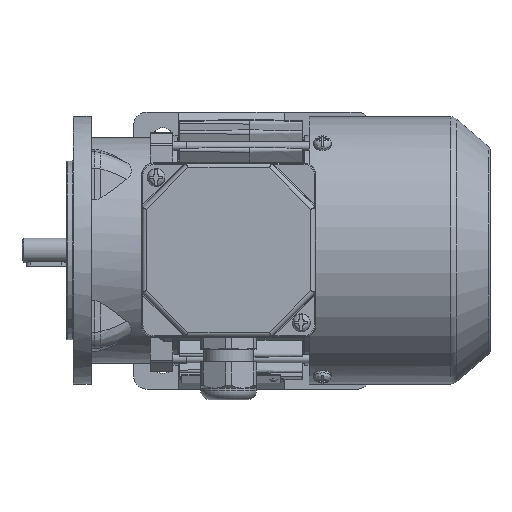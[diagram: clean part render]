
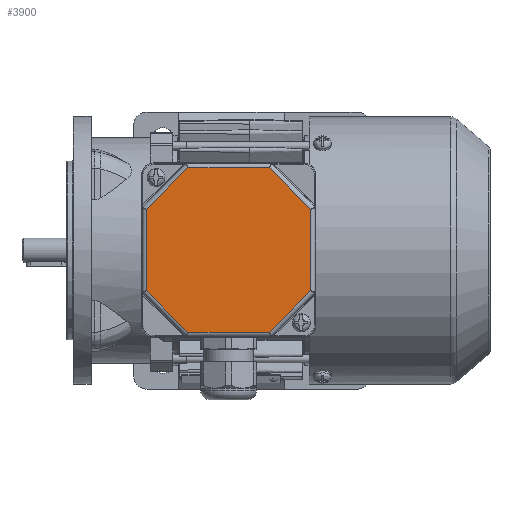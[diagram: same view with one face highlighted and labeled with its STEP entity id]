
A CAD part, top view. The second image highlights one B-rep face of the part: STEP entity #3900.
In plain terms, the highlighted planar face has unit normal (0, 0, 1).
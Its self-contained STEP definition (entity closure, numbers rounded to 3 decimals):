
#3900 = ADVANCED_FACE( '', ( #8678 ), #8679, .T. );
#8678 = FACE_OUTER_BOUND( '', #17755, .T. );
#8679 = PLANE( '', #17756 );
#17755 = EDGE_LOOP( '', ( #33540, #33541, #33542, #33543, #33544, #33545, #33546, #33547 ) );
#17756 = AXIS2_PLACEMENT_3D( '', #33548, #33549, #33550 );
#33540 = ORIENTED_EDGE( '', *, *, #48180, .T. );
#33541 = ORIENTED_EDGE( '', *, *, #45972, .T. );
#33542 = ORIENTED_EDGE( '', *, *, #47857, .T. );
#33543 = ORIENTED_EDGE( '', *, *, #48181, .T. );
#33544 = ORIENTED_EDGE( '', *, *, #48182, .T. );
#33545 = ORIENTED_EDGE( '', *, *, #48183, .T. );
#33546 = ORIENTED_EDGE( '', *, *, #48184, .T. );
#33547 = ORIENTED_EDGE( '', *, *, #48185, .T. );
#33548 = CARTESIAN_POINT( '', ( -39., 39., 12. ) );
#33549 = DIRECTION( '', ( 0., 0., 1. ) );
#33550 = DIRECTION( '', ( 1., 0., 0. ) );
#45972 = EDGE_CURVE( '', #53780, #53781, #53782, .T. );
#47857 = EDGE_CURVE( '', #53781, #56877, #56878, .F. );
#48180 = EDGE_CURVE( '', #56818, #53780, #57342, .F. );
#48181 = EDGE_CURVE( '', #56877, #56445, #57343, .T. );
#48182 = EDGE_CURVE( '', #56445, #57344, #57345, .F. );
#48183 = EDGE_CURVE( '', #57344, #57346, #57347, .T. );
#48184 = EDGE_CURVE( '', #57346, #57348, #57349, .F. );
#48185 = EDGE_CURVE( '', #57348, #56818, #57350, .T. );
#53780 = VERTEX_POINT( '', #66357 );
#53781 = VERTEX_POINT( '', #66358 );
#53782 = LINE( '', #66359, #66360 );
#56445 = VERTEX_POINT( '', #72049 );
#56818 = VERTEX_POINT( '', #72821 );
#56877 = VERTEX_POINT( '', #72915 );
#56878 = LINE( '', #72916, #72917 );
#57342 = LINE( '', #73819, #73820 );
#57343 = LINE( '', #73821, #73822 );
#57344 = VERTEX_POINT( '', #73823 );
#57345 = LINE( '', #73824, #73825 );
#57346 = VERTEX_POINT( '', #73826 );
#57347 = LINE( '', #73827, #73828 );
#57348 = VERTEX_POINT( '', #73829 );
#57349 = LINE( '', #73830, #73831 );
#57350 = LINE( '', #73832, #73833 );
#66357 = CARTESIAN_POINT( '', ( 36.825, 18.255, 12. ) );
#66358 = CARTESIAN_POINT( '', ( 18.255, 36.825, 12. ) );
#66359 = CARTESIAN_POINT( '', ( 17.679, 37.401, 12. ) );
#66360 = VECTOR( '', #84190, 1000. );
#72049 = CARTESIAN_POINT( '', ( -36.825, 18.255, 12. ) );
#72821 = CARTESIAN_POINT( '', ( 36.825, -18.255, 12. ) );
#72915 = CARTESIAN_POINT( '', ( -18.255, 36.825, 12. ) );
#72916 = CARTESIAN_POINT( '', ( -19.069, 36.825, 12. ) );
#72917 = VECTOR( '', #86476, 1000. );
#73819 = CARTESIAN_POINT( '', ( 36.825, 19.069, 12. ) );
#73820 = VECTOR( '', #86820, 1000. );
#73821 = CARTESIAN_POINT( '', ( -37.401, 17.679, 12. ) );
#73822 = VECTOR( '', #86821, 1000. );
#73823 = CARTESIAN_POINT( '', ( -36.825, -18.255, 12. ) );
#73824 = CARTESIAN_POINT( '', ( -36.825, -19.069, 12. ) );
#73825 = VECTOR( '', #86822, 1000. );
#73826 = CARTESIAN_POINT( '', ( -18.255, -36.825, 12. ) );
#73827 = CARTESIAN_POINT( '', ( -17.679, -37.401, 12. ) );
#73828 = VECTOR( '', #86823, 1000. );
#73829 = CARTESIAN_POINT( '', ( 18.255, -36.825, 12. ) );
#73830 = CARTESIAN_POINT( '', ( 19.069, -36.825, 12. ) );
#73831 = VECTOR( '', #86824, 1000. );
#73832 = CARTESIAN_POINT( '', ( 37.401, -17.679, 12. ) );
#73833 = VECTOR( '', #86825, 1000. );
#84190 = DIRECTION( '', ( -0.707, 0.707, 0. ) );
#86476 = DIRECTION( '', ( 1., 0., 0. ) );
#86820 = DIRECTION( '', ( 0., -1., 0. ) );
#86821 = DIRECTION( '', ( -0.707, -0.707, 0. ) );
#86822 = DIRECTION( '', ( 0., 1., 0. ) );
#86823 = DIRECTION( '', ( 0.707, -0.707, 0. ) );
#86824 = DIRECTION( '', ( -1., 0., 0. ) );
#86825 = DIRECTION( '', ( 0.707, 0.707, 0. ) );
